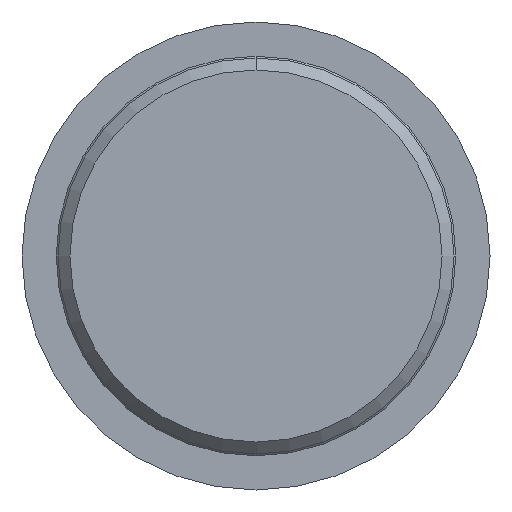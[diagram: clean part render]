
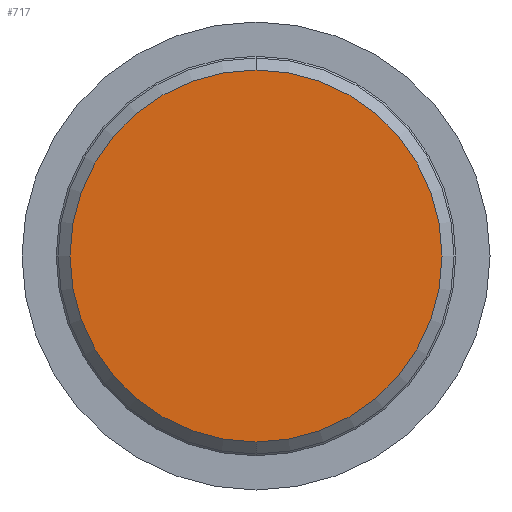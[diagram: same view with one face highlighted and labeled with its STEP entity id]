
A CAD part, front view. The second image highlights one B-rep face of the part: STEP entity #717.
In plain terms, the highlighted planar face has unit normal (0, -1, 0).
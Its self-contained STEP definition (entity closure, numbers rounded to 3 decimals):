
#8 = CIRCLE ( 'NONE', #427, 15.5 ) ;
#11 = DIRECTION ( 'NONE',  ( 0., 0., 1. ) ) ;
#30 = PLANE ( 'NONE',  #58 ) ;
#58 = AXIS2_PLACEMENT_3D ( 'NONE', #154, #263, #442 ) ;
#140 = VERTEX_POINT ( 'NONE', #481 ) ;
#154 = CARTESIAN_POINT ( 'NONE',  ( 15.5, 0., 0. ) ) ;
#203 = CARTESIAN_POINT ( 'NONE',  ( 0., 0., -15.5 ) ) ;
#263 = DIRECTION ( 'NONE',  ( 0., 1., 0. ) ) ;
#283 = CARTESIAN_POINT ( 'NONE',  ( 0., 0., 0. ) ) ;
#427 = AXIS2_PLACEMENT_3D ( 'NONE', #589, #639, #11 ) ;
#431 = EDGE_CURVE ( 'NONE', #603, #140, #561, .T. ) ;
#440 = ORIENTED_EDGE ( 'NONE', *, *, #757, .F. ) ;
#442 = DIRECTION ( 'NONE',  ( 0., 0., 1. ) ) ;
#454 = DIRECTION ( 'NONE',  ( 0., 0., 1. ) ) ;
#481 = CARTESIAN_POINT ( 'NONE',  ( 0., 0., 15.5 ) ) ;
#511 = AXIS2_PLACEMENT_3D ( 'NONE', #283, #640, #454 ) ;
#561 = CIRCLE ( 'NONE', #511, 15.5 ) ;
#588 = EDGE_LOOP ( 'NONE', ( #440, #686 ) ) ;
#589 = CARTESIAN_POINT ( 'NONE',  ( 0., 0., 0. ) ) ;
#603 = VERTEX_POINT ( 'NONE', #203 ) ;
#620 = FACE_OUTER_BOUND ( 'NONE', #588, .T. ) ;
#639 = DIRECTION ( 'NONE',  ( 0., 1., 0. ) ) ;
#640 = DIRECTION ( 'NONE',  ( 0., 1., 0. ) ) ;
#686 = ORIENTED_EDGE ( 'NONE', *, *, #431, .F. ) ;
#717 = ADVANCED_FACE ( 'NONE', ( #620 ), #30, .F. ) ;
#757 = EDGE_CURVE ( 'NONE', #140, #603, #8, .T. ) ;
